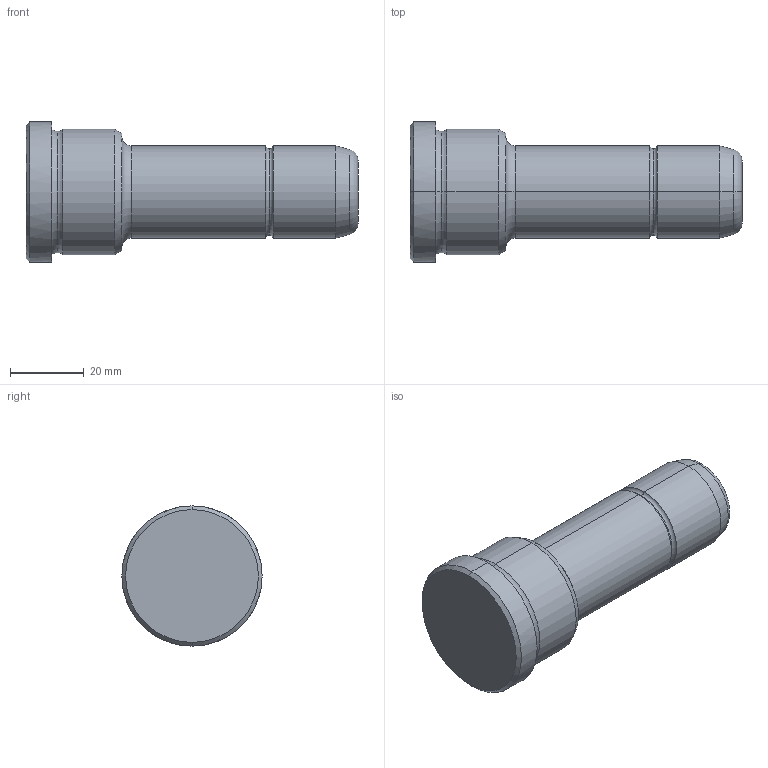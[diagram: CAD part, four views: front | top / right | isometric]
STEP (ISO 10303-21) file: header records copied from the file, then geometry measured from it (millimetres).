
FILE_DESCRIPTION(('CATIA V5 STEP Exchange'),'2;1');
FILE_NAME('C:\Users\Utente\Desktop\IO LAVORO\3D X SITO CF\X SITO\PLASTICA\351\351-25X26X90.stp','2021-08-28T09:22:59+00:00',('none'),('none'),'CATIA Version 5 Release 20 GA (IN-10)','CATIA V5 STEP AP203','none');
FILE_SCHEMA(('CONFIG_CONTROL_DESIGN'));
Length unit declared in the file: millimetre
Products named in the file (1): 351-25X26X90
Bounding box: 90 x 38 x 38 mm (x, y, z)
Volume: 55907.3 mm3; surface area: 9798.7 mm2
Topology: 1 solids, 1 shells, 30 faces, 86 edges, 60 vertices
Faces by surface type: torus 12, cylinder 8, cone 6, plane 4
Entity records: 1112 total; most frequent: CARTESIAN_POINT 289, ORIENTED_EDGE 172, DIRECTION 138, AXIS2_PLACEMENT_3D 95, EDGE_CURVE 86, CIRCLE 64, VERTEX_POINT 60, EDGE_LOOP 32
